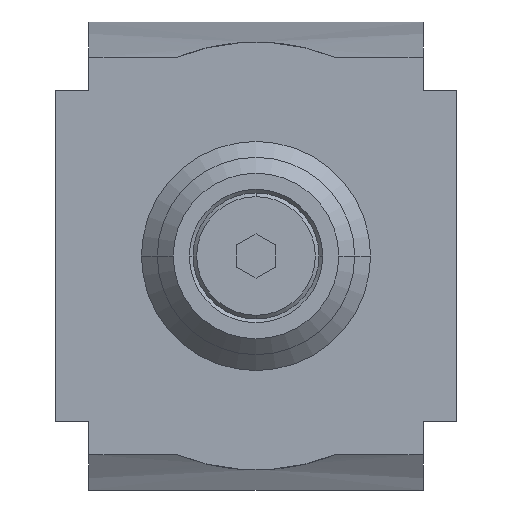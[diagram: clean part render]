
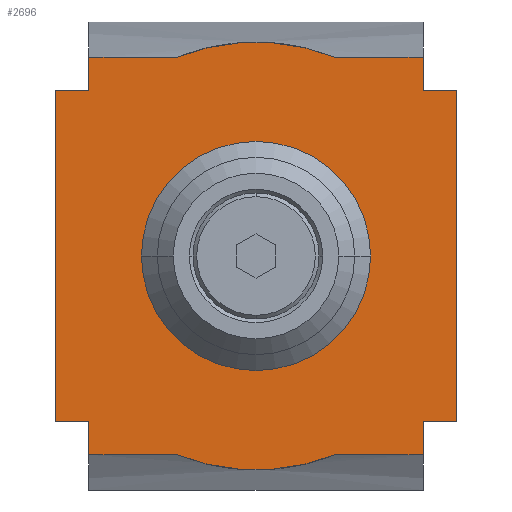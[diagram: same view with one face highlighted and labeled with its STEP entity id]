
A CAD part, front view. The second image highlights one B-rep face of the part: STEP entity #2696.
In plain terms, the highlighted planar face has unit normal (0, -1, 0).
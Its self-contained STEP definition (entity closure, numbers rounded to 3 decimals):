
#41=DIRECTION('',(0.,0.,-1.));
#42=VECTOR('',#41,5.242);
#43=CARTESIAN_POINT('',(-26.25,-37.5,-26.));
#44=LINE('',#43,#42);
#75=DIRECTION('',(0.,0.,-1.));
#76=VECTOR('',#75,5.242);
#77=CARTESIAN_POINT('',(-26.25,-37.5,31.242));
#78=LINE('',#77,#76);
#133=DIRECTION('',(1.,0.,0.));
#134=VECTOR('',#133,5.25);
#135=CARTESIAN_POINT('',(26.25,-37.5,26.));
#136=LINE('',#135,#134);
#141=DIRECTION('',(1.,0.,0.));
#142=VECTOR('',#141,5.25);
#143=CARTESIAN_POINT('',(-31.5,-37.5,26.));
#144=LINE('',#143,#142);
#492=DIRECTION('',(1.,0.,0.));
#493=VECTOR('',#492,5.25);
#494=CARTESIAN_POINT('',(26.25,-37.5,-26.));
#495=LINE('',#494,#493);
#526=DIRECTION('',(1.,0.,0.));
#527=VECTOR('',#526,5.25);
#528=CARTESIAN_POINT('',(-31.5,-37.5,-26.));
#529=LINE('',#528,#527);
#583=DIRECTION('',(0.,0.,-1.));
#584=VECTOR('',#583,5.242);
#585=CARTESIAN_POINT('',(26.25,-37.5,31.242));
#586=LINE('',#585,#584);
#617=DIRECTION('',(0.,0.,-1.));
#618=VECTOR('',#617,5.242);
#619=CARTESIAN_POINT('',(26.25,-37.5,-26.));
#620=LINE('',#619,#618);
#633=CARTESIAN_POINT('',(0.,-37.5,0.));
#634=DIRECTION('',(0.,1.,0.));
#635=DIRECTION('',(0.368,0.,-0.93));
#636=AXIS2_PLACEMENT_3D('',#633,#634,#635);
#638=DIRECTION('',(0.,0.,1.));
#639=VECTOR('',#638,52.);
#640=CARTESIAN_POINT('',(-31.5,-37.5,-26.));
#641=LINE('',#640,#639);
#642=DIRECTION('',(1.,0.,0.));
#643=VECTOR('',#642,13.886);
#644=CARTESIAN_POINT('',(-26.25,-37.5,31.242));
#645=LINE('',#644,#643);
#646=CARTESIAN_POINT('',(0.,-37.5,0.));
#647=DIRECTION('',(0.,1.,0.));
#648=DIRECTION('',(-0.368,0.,0.93));
#649=AXIS2_PLACEMENT_3D('',#646,#647,#648);
#651=DIRECTION('',(1.,0.,0.));
#652=VECTOR('',#651,13.886);
#653=CARTESIAN_POINT('',(12.364,-37.5,31.242));
#654=LINE('',#653,#652);
#655=CARTESIAN_POINT('',(0.,-37.5,0.));
#656=DIRECTION('',(0.,1.,0.));
#657=DIRECTION('',(-1.,0.,0.));
#658=AXIS2_PLACEMENT_3D('',#655,#656,#657);
#660=CARTESIAN_POINT('',(0.,-37.5,0.));
#661=DIRECTION('',(0.,1.,0.));
#662=DIRECTION('',(1.,0.,0.));
#663=AXIS2_PLACEMENT_3D('',#660,#661,#662);
#665=DIRECTION('',(1.,0.,0.));
#666=VECTOR('',#665,13.886);
#667=CARTESIAN_POINT('',(-26.25,-37.5,-31.242));
#668=LINE('',#667,#666);
#714=DIRECTION('',(1.,0.,0.));
#715=VECTOR('',#714,13.886);
#716=CARTESIAN_POINT('',(12.364,-37.5,-31.242));
#717=LINE('',#716,#715);
#1239=DIRECTION('',(0.,0.,1.));
#1240=VECTOR('',#1239,52.);
#1241=CARTESIAN_POINT('',(31.5,-37.5,-26.));
#1242=LINE('',#1241,#1240);
#1569=CARTESIAN_POINT('',(-31.5,-37.5,-26.));
#1570=VERTEX_POINT('',#1569);
#1571=CARTESIAN_POINT('',(31.5,-37.5,-26.));
#1573=VERTEX_POINT('',#1571);
#1593=CARTESIAN_POINT('',(-31.5,-37.5,26.));
#1594=VERTEX_POINT('',#1593);
#1595=CARTESIAN_POINT('',(31.5,-37.5,26.));
#1597=VERTEX_POINT('',#1595);
#1607=CARTESIAN_POINT('',(-26.25,-37.5,31.242));
#1608=CARTESIAN_POINT('',(-26.25,-37.5,26.));
#1609=VERTEX_POINT('',#1607);
#1610=VERTEX_POINT('',#1608);
#1611=CARTESIAN_POINT('',(26.25,-37.5,31.242));
#1612=CARTESIAN_POINT('',(26.25,-37.5,26.));
#1613=VERTEX_POINT('',#1611);
#1614=VERTEX_POINT('',#1612);
#1615=CARTESIAN_POINT('',(-26.25,-37.5,-26.));
#1616=VERTEX_POINT('',#1615);
#1617=CARTESIAN_POINT('',(26.25,-37.5,-26.));
#1618=VERTEX_POINT('',#1617);
#1619=CARTESIAN_POINT('',(-26.25,-37.5,-31.242));
#1620=VERTEX_POINT('',#1619);
#1621=CARTESIAN_POINT('',(26.25,-37.5,-31.242));
#1622=VERTEX_POINT('',#1621);
#1663=CARTESIAN_POINT('',(-12.364,-37.5,31.242));
#1664=VERTEX_POINT('',#1663);
#1665=CARTESIAN_POINT('',(12.364,-37.5,31.242));
#1666=VERTEX_POINT('',#1665);
#1667=CARTESIAN_POINT('',(-12.364,-37.5,-31.242));
#1668=VERTEX_POINT('',#1667);
#1669=CARTESIAN_POINT('',(12.364,-37.5,-31.242));
#1670=VERTEX_POINT('',#1669);
#1975=CARTESIAN_POINT('',(-18.,-37.5,0.));
#1976=CARTESIAN_POINT('',(18.,-37.5,0.));
#1977=VERTEX_POINT('',#1975);
#1978=VERTEX_POINT('',#1976);
#2659=CARTESIAN_POINT('',(-26.25,-37.5,31.242));
#2660=DIRECTION('',(0.,-1.,0.));
#2661=DIRECTION('',(0.,0.,-1.));
#2662=AXIS2_PLACEMENT_3D('',#2659,#2660,#2661);
#2663=PLANE('',#2662);
#2665=ORIENTED_EDGE('',*,*,#2664,.F.);
#2667=ORIENTED_EDGE('',*,*,#2666,.T.);
#2669=ORIENTED_EDGE('',*,*,#2668,.F.);
#2670=ORIENTED_EDGE('',*,*,#2042,.F.);
#2671=ORIENTED_EDGE('',*,*,#2553,.F.);
#2673=ORIENTED_EDGE('',*,*,#2672,.T.);
#2674=ORIENTED_EDGE('',*,*,#2127,.T.);
#2675=ORIENTED_EDGE('',*,*,#2058,.F.);
#2677=ORIENTED_EDGE('',*,*,#2676,.T.);
#2679=ORIENTED_EDGE('',*,*,#2678,.T.);
#2681=ORIENTED_EDGE('',*,*,#2680,.T.);
#2682=ORIENTED_EDGE('',*,*,#2617,.T.);
#2683=ORIENTED_EDGE('',*,*,#2112,.T.);
#2685=ORIENTED_EDGE('',*,*,#2684,.F.);
#2686=ORIENTED_EDGE('',*,*,#2532,.F.);
#2687=ORIENTED_EDGE('',*,*,#2633,.T.);
#2688=EDGE_LOOP('',(#2665,#2667,#2669,#2670,#2671,#2673,#2674,#2675,#2677,#2679,
#2681,#2682,#2683,#2685,#2686,#2687));
#2689=FACE_OUTER_BOUND('',#2688,.F.);
#2691=ORIENTED_EDGE('',*,*,#2690,.F.);
#2693=ORIENTED_EDGE('',*,*,#2692,.F.);
#2694=EDGE_LOOP('',(#2691,#2693));
#2695=FACE_BOUND('',#2694,.F.);
#2696=ADVANCED_FACE('',(#2689,#2695),#2663,.T.);
#637=CIRCLE('',#636,33.6);
#650=CIRCLE('',#649,33.6);
#659=CIRCLE('',#658,18.);
#664=CIRCLE('',#663,18.);
#2042=EDGE_CURVE('',#1616,#1620,#44,.T.);
#2058=EDGE_CURVE('',#1609,#1610,#78,.T.);
#2112=EDGE_CURVE('',#1614,#1597,#136,.T.);
#2127=EDGE_CURVE('',#1594,#1610,#144,.T.);
#2532=EDGE_CURVE('',#1618,#1573,#495,.T.);
#2553=EDGE_CURVE('',#1570,#1616,#529,.T.);
#2617=EDGE_CURVE('',#1613,#1614,#586,.T.);
#2633=EDGE_CURVE('',#1618,#1622,#620,.T.);
#2664=EDGE_CURVE('',#1670,#1622,#717,.T.);
#2666=EDGE_CURVE('',#1670,#1668,#637,.T.);
#2668=EDGE_CURVE('',#1620,#1668,#668,.T.);
#2672=EDGE_CURVE('',#1570,#1594,#641,.T.);
#2676=EDGE_CURVE('',#1609,#1664,#645,.T.);
#2678=EDGE_CURVE('',#1664,#1666,#650,.T.);
#2680=EDGE_CURVE('',#1666,#1613,#654,.T.);
#2684=EDGE_CURVE('',#1573,#1597,#1242,.T.);
#2690=EDGE_CURVE('',#1977,#1978,#659,.T.);
#2692=EDGE_CURVE('',#1978,#1977,#664,.T.);
